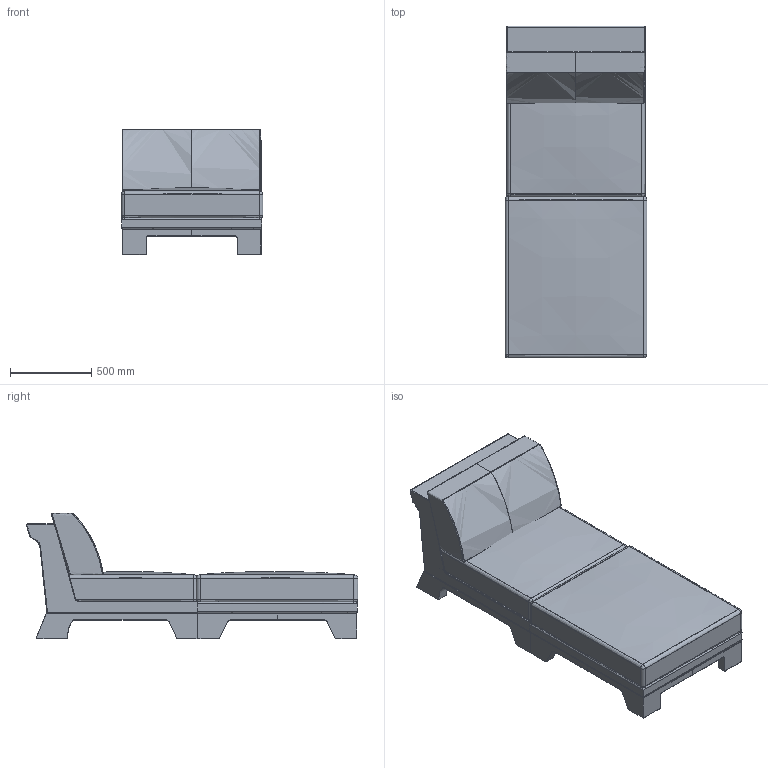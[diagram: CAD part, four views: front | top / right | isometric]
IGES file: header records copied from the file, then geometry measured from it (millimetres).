
Global section: file name: C:\Users\market02\Desktop\RYAN\PATT\FPATTCOM009_COMPOSITION 9_PATT\exportation\FPATTCOM002_COMPOSITION 9_PATT.igs; native system: Rhinoceros ( Dec 14 2021 ); preprocessor: Trout Lake IGES 012 Dec 14 2021; date: 220131.101558; units: millimetre
Bounding box: 869.84 x 2035.78 x 768.06 mm (x, y, z)
Surface area: 14108697.4 mm2 (no closed solid volume)
Topology: 0 solids, 0 shells, 297 faces, 3029 edges, 3027 vertices
Faces by surface type: bspline 297
